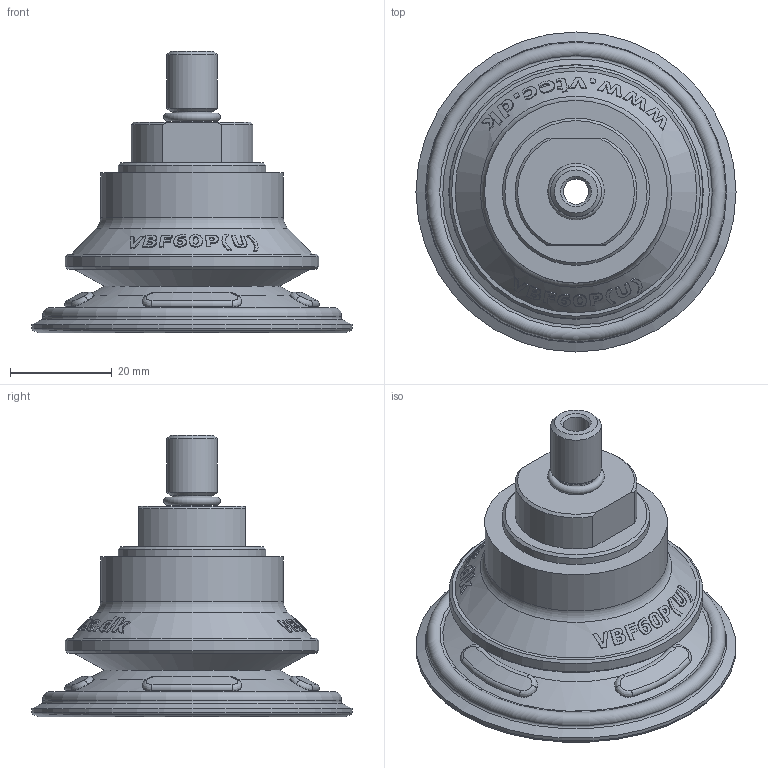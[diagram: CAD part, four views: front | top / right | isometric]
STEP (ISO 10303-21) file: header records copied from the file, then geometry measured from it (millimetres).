
FILE_DESCRIPTION( ( 'Unknown' ), '1' );
FILE_NAME( 'D:/濛機奢濰/Vacuum Pads/VBF/VBF60/STP/VBF60P(U)-M10M.stp', 'Unknown', ( 'Unknown' ), ( 'Unknown' ), 'PSStep 10.0', 'Unknown', ' ' );
FILE_SCHEMA( ( 'automotive_design' ) );
Length unit declared in the file: millimetre
Products named in the file (1): VBF60-18F
Bounding box: 63 x 63 x 55.5 mm (x, y, z)
Volume: 26830.4 mm3; surface area: 17206.7 mm2
Topology: 1 solids, 1 shells, 532 faces, 1310 edges, 841 vertices
Faces by surface type: bspline 192, plane 153, cone 98, cylinder 71, torus 18
Full cylindrical faces by diameter (mm): 5 x9, 7 x1, 8 x2, 8.5 x1, 10 x1, 12 x1, 28 x1, 29 x1, 36 x1, 49.995 x1, 60 x1, 63 x1
Entity records: 28277 total; most frequent: CARTESIAN_POINT 13996, ORIENTED_EDGE 2486, EDGE_CURVE 1243, DIRECTION 1182, B_SPLINE_CURVE_WITH_KNOTS 909, VERTEX_POINT 834, EDGE_LOOP 655, FACE_OUTER_BOUND 565
